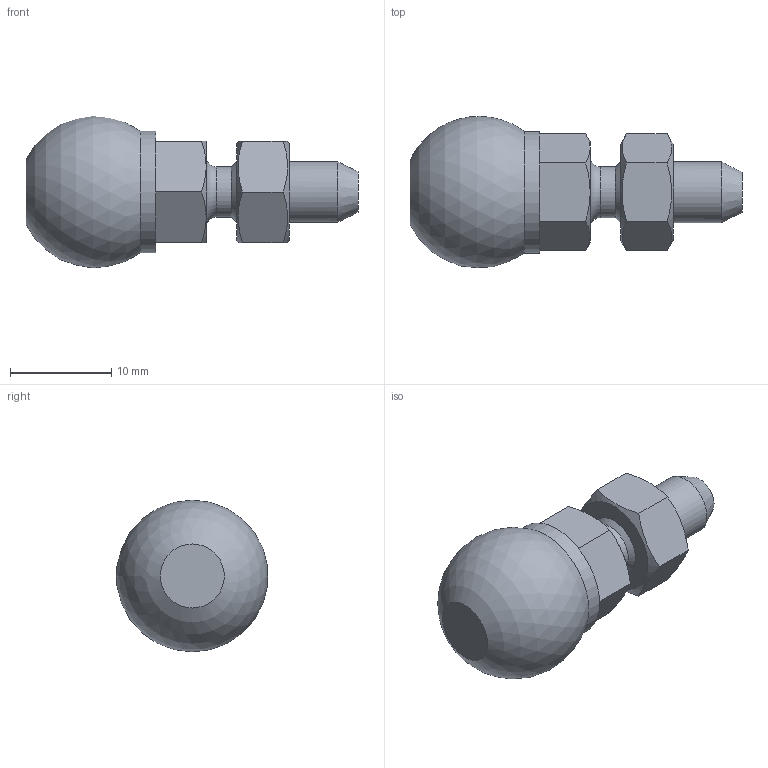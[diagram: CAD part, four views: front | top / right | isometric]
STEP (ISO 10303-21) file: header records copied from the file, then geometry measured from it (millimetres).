
FILE_DESCRIPTION(('STEP AP203'), '1');
FILE_NAME('A00020.106015', '', ('UNSPECIFIED'), ('UNSPECIFIED'), 'C3D Converter', 'C3D Toolkit', '');
FILE_SCHEMA(('CONFIG_CONTROL_DESIGN'));
Length unit declared in the file: millimetre
Products named in the file (2): A00020.106015
Assembly tree (1 placements, depth 2):
  A00020.106015
    (unnamed)
Bounding box: 32.8 x 14.94 x 15 mm (x, y, z)
Volume: 2902.1 mm3; surface area: 1535.4 mm2
Topology: 2 solids, 2 shells, 36 faces, 80 edges, 50 vertices
Faces by surface type: plane 18, cone 12, cylinder 4, sphere 1, torus 1
Full cylindrical faces by diameter (mm): 4.917 x1, 5 x1, 6 x1, 12 x1
Entity records: 2031 total; most frequent: CARTESIAN_POINT 1024, DIRECTION 146, ORIENTED_EDGE 136, EDGE_CURVE 68, AXIS2_PLACEMENT_3D 64, EDGE_LOOP 52, VERTEX_POINT 50, FACE_BOUND 37
